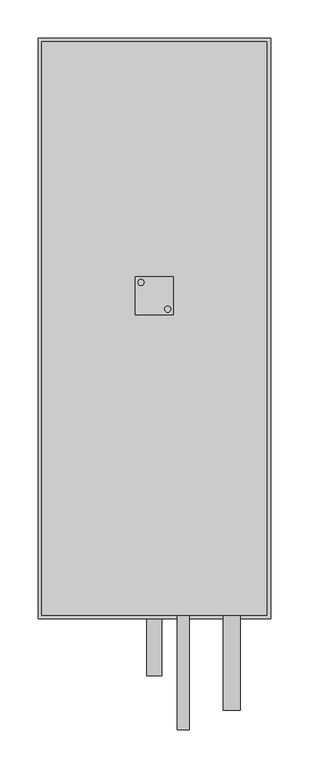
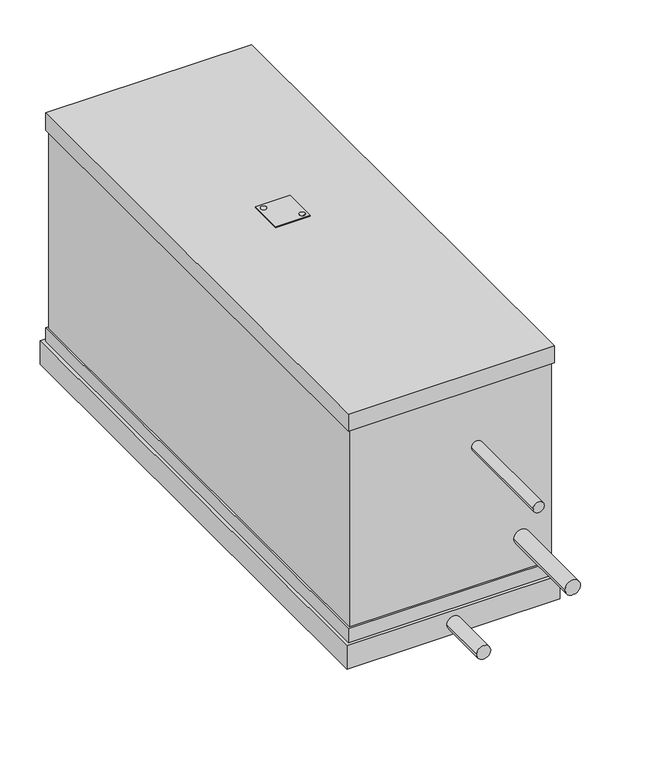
"""IFC4 building model written with IfcOpenShell, lengths in millimetres: proxy geometry, KORF_Воздухоохладитель_Фреоновый_FLO_Левый : FLO 60-30."""

from ifc_helpers import new_model, si_unit, point, frame, frame_2d, origin, place, context, project, spatial, polyline, circle_curve, trimmed, segment, composite_curve, outline, extrude, faceted_brep, source, transform, mapped, element, save


def mechanical_equipment_36b7a56c(model_context):
    return source(origin(), model_context, "Body", "SolidModel", [
        extrude(outline(composite_curve([segment(trimmed(circle_curve(frame_2d((170.5727066, -17.5745746)), 4.0), [point((174.5727066, -17.5745746))], [point((166.5727066, -17.5745746))], False, "CARTESIAN"), True, "CONTINUOUS"), segment(trimmed(circle_curve(frame_2d((170.5727066, -17.5745746)), 4.0), [point((166.5727066, -17.5745746))], [point((174.5727066, -17.5745746))], False, "CARTESIAN"), True, "CONTINUOUS")], self_intersect=False)), frame((0.0, 0.0, 176.0), z_axis=(0.0, 0.0, 1.0), x_axis=(1.0, 0.0, 0.0)), (0.0, 0.0, 1.0), 2.0),
        extrude(outline(composite_curve([segment(trimmed(circle_curve(frame_2d((135.4272934, 17.5745746)), 4.0), [point((131.4272934, 17.5745746))], [point((139.4272934, 17.5745746))], False, "CARTESIAN"), True, "CONTINUOUS"), segment(trimmed(circle_curve(frame_2d((135.4272934, 17.5745746)), 4.0), [point((139.4272934, 17.5745746))], [point((131.4272934, 17.5745746))], False, "CARTESIAN"), True, "CONTINUOUS")], self_intersect=False)), frame((0.0, 0.0, 176.0), z_axis=(0.0, 0.0, 1.0), x_axis=(1.0, 0.0, 0.0)), (0.0, 0.0, 1.0), 2.0),
        extrude(outline(polyline([(128.0, -25.0), (128.0, 25.0), (178.0, 25.0), (178.0, -25.0), (128.0, -25.0)]), holes=[composite_curve([segment(trimmed(circle_curve(frame_2d((170.5727066, -17.5745746)), 4.0), [point((174.5727066, -17.5745746))], [point((166.5727066, -17.5745746))], True, "CARTESIAN"), True, "CONTINUOUS"), segment(trimmed(circle_curve(frame_2d((170.5727066, -17.5745746)), 4.0), [point((166.5727066, -17.5745746))], [point((174.5727066, -17.5745746))], True, "CARTESIAN"), True, "CONTINUOUS")], self_intersect=False), composite_curve([segment(trimmed(circle_curve(frame_2d((135.4272934, 17.5745746)), 4.0), [point((131.4272934, 17.5745746))], [point((139.4272934, 17.5745746))], True, "CARTESIAN"), True, "CONTINUOUS"), segment(trimmed(circle_curve(frame_2d((135.4272934, 17.5745746)), 4.0), [point((139.4272934, 17.5745746))], [point((131.4272934, 17.5745746))], True, "CARTESIAN"), True, "CONTINUOUS")], self_intersect=False)]), frame((0.0, 0.0, 176.0), z_axis=(0.0, 0.0, 1.0), x_axis=(1.0, 0.0, 0.0)), (0.0, 0.0, 1.0), 2.0),
        faceted_brep([(306.0, -425.0, -171.0), (306.0, -425.0, -207.0), (306.0, 339.0, -207.0), (306.0, 339.0, -171.0), (0.0, -425.0, -171.0), (0.0, 339.0, -171.0), (0.0, 339.0, -207.0), (0.0, -425.0, -207.0), (301.0, 334.0, -171.0), (301.0, -420.0, -171.0), (5.0, -420.0, -171.0), (5.0, 334.0, -171.0), (298.0, -417.0, 150.0), (298.0, -417.0, -150.0), (298.0, -300.0, -150.0), (298.0, 300.0, -150.0), (298.0, 331.0, -150.0), (298.0, 331.0, 150.0), (298.0, 300.0, 150.0), (298.0, -300.0, 150.0), (8.0, 331.0, 150.0), (8.0, 331.0, -150.0), (8.0, 300.0, -150.0), (8.0, -300.0, -150.0), (8.0, -417.0, -150.0), (8.0, -417.0, 150.0), (8.0, -300.0, 150.0), (8.0, 300.0, 150.0), (301.0, -420.0, 150.0), (301.0, 334.0, 150.0), (301.0, 334.0, 176.0), (301.0, -420.0, 176.0), (301.0, -420.0, -150.0), (301.0, 334.0, -150.0), (5.0, -420.0, 150.0), (5.0, -420.0, 176.0), (5.0, 334.0, 176.0), (5.0, 334.0, 150.0), (5.0, -420.0, -150.0), (5.0, 334.0, -150.0)], [[[0, 1, 2, 3]], [[4, 5, 6, 7]], [[1, 0, 4, 7]], [[2, 1, 7, 6]], [[3, 2, 6, 5]], [[0, 3, 5, 4], [8, 9, 10, 11]], [[12, 13, 14, 15, 16, 17, 18, 19]], [[20, 21, 22, 23, 24, 25, 26, 27]], [[13, 12, 25, 24]], [[17, 16, 21, 20]], [[28, 29, 30, 31]], [[32, 9, 8, 33]], [[34, 35, 36, 37]], [[38, 39, 11, 10]], [[29, 28, 34, 37], [12, 19, 18, 17, 20, 27, 26, 25]], [[30, 29, 37, 36]], [[31, 30, 36, 35]], [[28, 31, 35, 34]], [[9, 32, 38, 10]], [[33, 8, 11, 39]], [[32, 33, 39, 38], [14, 13, 24, 23, 22, 21, 16, 15]]]),
        extrude(outline(composite_curve([segment(trimmed(circle_curve(frame_2d((-99.0, 255.0)), 11.11), [point((-99.0, 243.89))], [point((-99.0, 266.11))], False, "CARTESIAN"), True, "CONTINUOUS"), segment(trimmed(circle_curve(frame_2d((-99.0, 255.0)), 11.11), [point((-99.0, 266.11))], [point((-99.0, 243.89))], False, "CARTESIAN"), True, "CONTINUOUS")], self_intersect=False)), frame((0.0, -545.0, 0.0), z_axis=(0.0, 1.0, 0.0), x_axis=(0.0, 0.0, 1.0)), (0.0, 0.0, 1.0), 128.0),
        extrude(outline(composite_curve([segment(trimmed(circle_curve(frame_2d((61.0, 191.0)), 7.94), [point((61.0, 183.06))], [point((61.0, 198.94))], False, "CARTESIAN"), True, "CONTINUOUS"), segment(trimmed(circle_curve(frame_2d((61.0, 191.0)), 7.94), [point((61.0, 198.94))], [point((61.0, 183.06))], False, "CARTESIAN"), True, "CONTINUOUS")], self_intersect=False)), frame((0.0, -571.0, 0.0), z_axis=(0.0, 1.0, 0.0), x_axis=(0.0, 0.0, 1.0)), (0.0, 0.0, 1.0), 154.0),
        extrude(outline(composite_curve([segment(trimmed(circle_curve(frame_2d((-189.0, 153.0)), 10.0), [point((-189.0, 143.0))], [point((-189.0, 163.0))], False, "CARTESIAN"), True, "CONTINUOUS"), segment(trimmed(circle_curve(frame_2d((-189.0, 153.0)), 10.0), [point((-189.0, 163.0))], [point((-189.0, 143.0))], False, "CARTESIAN"), True, "CONTINUOUS")], self_intersect=False)), frame((0.0, -500.0, 0.0), z_axis=(0.0, 1.0, 0.0), x_axis=(0.0, 0.0, 1.0)), (0.0, 0.0, 1.0), 75.0),
    ])


if __name__ == "__main__":
    model = new_model("IFC4")
    model_context = context("Model", 3, world=origin())
    ifc_project = project(units=[si_unit("LENGTHUNIT", "METRE", prefix="MILLI")], contexts=[model_context])
    site = spatial("IfcSite", under=ifc_project)
    building = spatial("IfcBuilding", under=site)
    placement = place(None, origin())
    mechanical_equipment_shape = mechanical_equipment_36b7a56c(model_context)
    element("IfcBuildingElementProxy", 1, Name="KORF_Воздухоохладитель_Фреоновый_FLO_Левый : FLO 60-30", ObjectType="KORF_Воздухоохладитель_Фреоновый_FLO_Левый : FLO 60-30", at=placement, inside=building, context=model_context, shape_type="MappedRepresentation", body=[
        mapped(mechanical_equipment_shape, transform((0.0, 0.0, 0.0), x_axis=(1.0, 0.0, 0.0), y_axis=(0.0, 1.0, 0.0), z_axis=(0.0, 0.0, 1.0))),
    ])
    save(model, "model.ifc")
